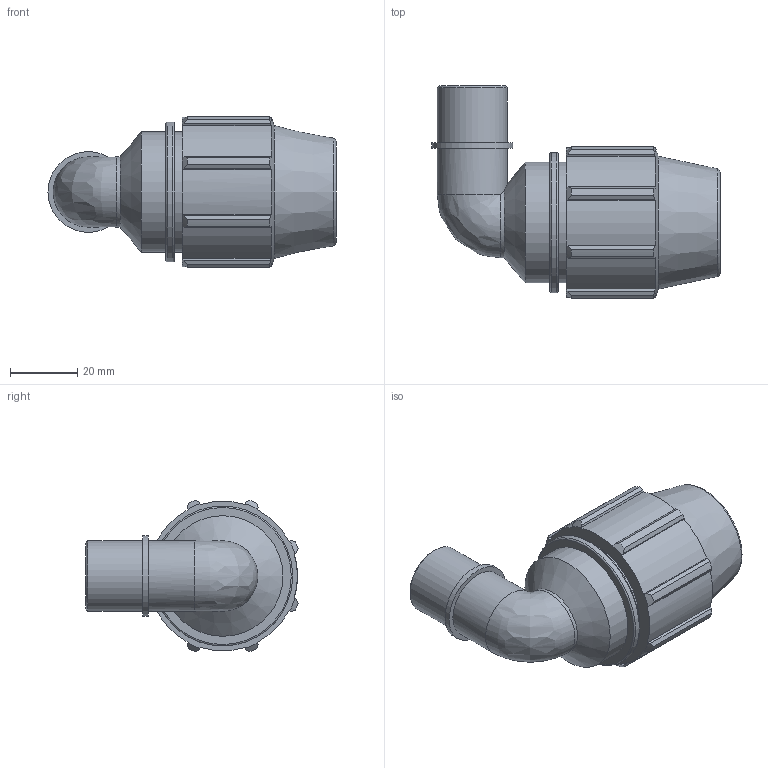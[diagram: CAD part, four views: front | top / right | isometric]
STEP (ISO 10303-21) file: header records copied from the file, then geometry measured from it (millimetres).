
FILE_DESCRIPTION(/* description */ ('PLASSON 90° ELBOW MALE ADAPTOR 1/2''''-1/2''''M'),/* implementation_level */ '2;1');
FILE_NAME(/* name */ 'C:\Dropbox\KIMPROJECTS-Inventor 2019\99-16-3568-Processing Inch\ASTM Compression 2021\0785M0\0785M0005005.ipt.stp',/* time_stamp */ '2021-08-26T12:35:27+03:00',/* author */ ('KIM'),/* organization */ (''),/* preprocessor_version */ 'ST-DEVELOPER v17.2',/* originating_system */ 'Autodesk Inventor 2019',/* authorisation */ '');
FILE_SCHEMA (('AUTOMOTIVE_DESIGN { 1 0 10303 214 3 1 1 }'));
Length unit declared in the file: inch
Products named in the file (1): 0785M0005005
Bounding box: 85.96 x 63.48 x 45.17 mm (x, y, z)
Volume: 66814.9 mm3; surface area: 20728.9 mm2
Topology: 1 solids, 1 shells, 86 faces, 249 edges, 170 vertices
Faces by surface type: plane 41, cylinder 26, cone 14, torus 4, bspline 1
Full cylindrical faces by diameter (mm): 14.668 x2, 20.955 x2, 21.2 x1, 24.098 x1, 36.005 x2, 41.765 x1
Entity records: 3030 total; most frequent: CARTESIAN_POINT 608, ORIENTED_EDGE 494, DIRECTION 487, EDGE_CURVE 247, AXIS2_PLACEMENT_3D 188, VERTEX_POINT 170, LINE 111, VECTOR 111
